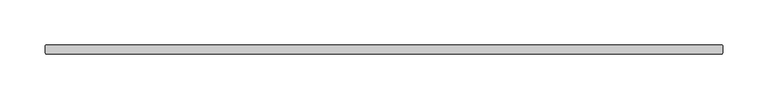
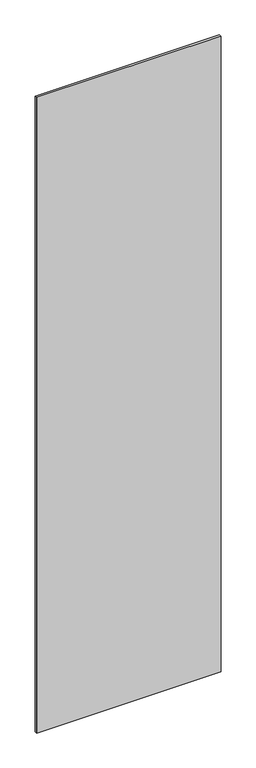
"""IFC4 building model written with IfcOpenShell, lengths in millimetres: plate geometry, Panel Flex Glassline : Panel Flex Glassline."""

from ifc_helpers import new_model, si_unit, origin, origin_with_axes, place, context, project, spatial, polyline, outline, extrude, source, transform, mapped, element, save


def plate_fe703c6f(model_context):
    return source(origin(), model_context, "Body", "SweptSolid", [
        extrude(outline(polyline([(375.5, 12.0), (376.5, 11.0), (376.5, 3.0), (375.5, 2.0), (-375.5, 2.0), (-376.5, 3.0), (-376.5, 11.0), (-375.5, 12.0), (375.5, 12.0)])), origin_with_axes(), (0.0, 0.0, 1.0), 2735.0),
    ])


if __name__ == "__main__":
    model = new_model("IFC4")
    model_context = context("Model", 3, world=origin())
    ifc_project = project(units=[si_unit("LENGTHUNIT", "METRE", prefix="MILLI")], contexts=[model_context])
    site = spatial("IfcSite", under=ifc_project)
    building = spatial("IfcBuilding", under=site)
    placement = place(None, origin())
    plate_shape = plate_fe703c6f(model_context)
    element("IfcPlate", 1, ObjectType="Panel Flex Glassline : Panel Flex Glassline", at=placement, inside=building, context=model_context, shape_type="MappedRepresentation", body=[
        mapped(plate_shape, transform((0.0, 0.0, 0.0), x_axis=(1.0, 0.0, 0.0), y_axis=(0.0, 1.0, 0.0), z_axis=(0.0, 0.0, 1.0))),
    ])
    save(model, "model.ifc")
